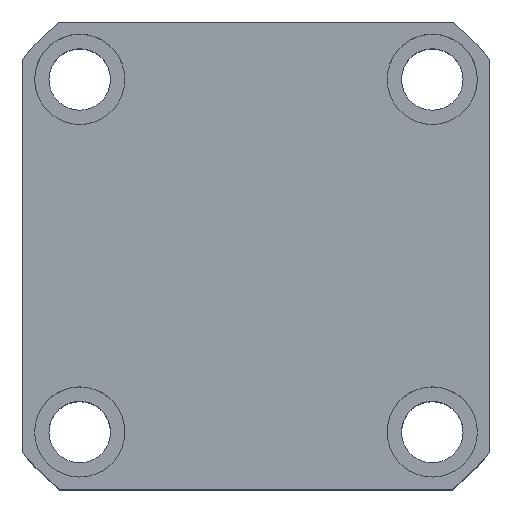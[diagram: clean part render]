
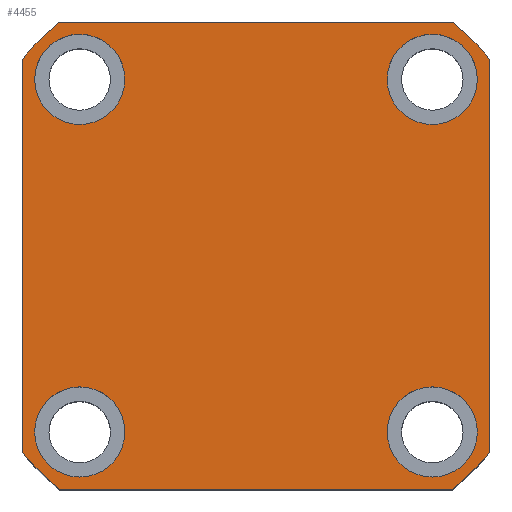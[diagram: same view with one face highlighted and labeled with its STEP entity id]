
A CAD part, top view. The second image highlights one B-rep face of the part: STEP entity #4455.
In plain terms, the highlighted planar face has unit normal (0, 0, 1) as drawn and (0, 0, -1) by its records, which use the part's own axes.
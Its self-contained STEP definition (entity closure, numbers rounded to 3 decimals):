
#21 = EDGE_CURVE ( 'NONE', #13999, #2239, #12391, .T. ) ;
#101 = VERTEX_POINT ( 'NONE', #5856 ) ;
#259 = CARTESIAN_POINT ( 'NONE',  ( -43., -43., 0. ) ) ;
#564 = CARTESIAN_POINT ( 'NONE',  ( -57., 47.971, 0. ) ) ;
#902 = DIRECTION ( 'NONE',  ( 1., 0., 0. ) ) ;
#951 = DIRECTION ( 'NONE',  ( 0., 0., -1. ) ) ;
#1001 = DIRECTION ( 'NONE',  ( -1., 0., 0. ) ) ;
#1107 = ORIENTED_EDGE ( 'NONE', *, *, #10076, .F. ) ;
#1182 = ORIENTED_EDGE ( 'NONE', *, *, #4590, .F. ) ;
#1237 = CARTESIAN_POINT ( 'NONE',  ( -32., 43., 0. ) ) ;
#1273 = LINE ( 'NONE', #13001, #13388 ) ;
#1448 = DIRECTION ( 'NONE',  ( -1., 0., 0. ) ) ;
#1546 = CARTESIAN_POINT ( 'NONE',  ( -54., -43., 0. ) ) ;
#1557 = ORIENTED_EDGE ( 'NONE', *, *, #2484, .F. ) ;
#1594 = CIRCLE ( 'NONE', #2780, 11. ) ;
#1877 = CARTESIAN_POINT ( 'NONE',  ( 0., 0., 0. ) ) ;
#1924 = CARTESIAN_POINT ( 'NONE',  ( 43., -43., 0. ) ) ;
#2032 = ORIENTED_EDGE ( 'NONE', *, *, #13492, .F. ) ;
#2058 = VERTEX_POINT ( 'NONE', #7916 ) ;
#2108 = AXIS2_PLACEMENT_3D ( 'NONE', #6690, #14947, #7881 ) ;
#2239 = VERTEX_POINT ( 'NONE', #1546 ) ;
#2281 = CARTESIAN_POINT ( 'NONE',  ( -57., 57., 0. ) ) ;
#2355 = FACE_BOUND ( 'NONE', #5007, .T. ) ;
#2409 = CARTESIAN_POINT ( 'NONE',  ( 57., 47.971, 0. ) ) ;
#2435 = CIRCLE ( 'NONE', #14882, 11. ) ;
#2473 = EDGE_LOOP ( 'NONE', ( #4984, #7079 ) ) ;
#2484 = EDGE_CURVE ( 'NONE', #101, #10629, #9979, .T. ) ;
#2540 = ORIENTED_EDGE ( 'NONE', *, *, #6001, .F. ) ;
#2654 = ORIENTED_EDGE ( 'NONE', *, *, #9304, .F. ) ;
#2703 = FACE_BOUND ( 'NONE', #2473, .T. ) ;
#2755 = CARTESIAN_POINT ( 'NONE',  ( 43., -43., 0. ) ) ;
#2780 = AXIS2_PLACEMENT_3D ( 'NONE', #7978, #951, #9168 ) ;
#2976 = EDGE_CURVE ( 'NONE', #9476, #9756, #5923, .T. ) ;
#3055 = DIRECTION ( 'NONE',  ( 1., 0., 0. ) ) ;
#3108 = DIRECTION ( 'NONE',  ( -1., 0., 0. ) ) ;
#3130 = ORIENTED_EDGE ( 'NONE', *, *, #14151, .F. ) ;
#3293 = CARTESIAN_POINT ( 'NONE',  ( 32., -43., 0. ) ) ;
#3324 = VERTEX_POINT ( 'NONE', #3293 ) ;
#3368 = CARTESIAN_POINT ( 'NONE',  ( 57., -47.971, 0. ) ) ;
#3455 = DIRECTION ( 'NONE',  ( -1., 0., 0. ) ) ;
#3457 = ORIENTED_EDGE ( 'NONE', *, *, #3481, .F. ) ;
#3481 = EDGE_CURVE ( 'NONE', #10629, #4672, #7561, .T. ) ;
#3943 = DIRECTION ( 'NONE',  ( -1., 0., 0. ) ) ;
#4455 = ADVANCED_FACE ( 'NONE', ( #2355, #8578, #11718, #2703, #8951 ), #12350, .F. ) ;
#4590 = EDGE_CURVE ( 'NONE', #2058, #13052, #1594, .T. ) ;
#4603 = CARTESIAN_POINT ( 'NONE',  ( 0., 0., 0. ) ) ;
#4643 = EDGE_CURVE ( 'NONE', #13052, #2058, #10625, .T. ) ;
#4672 = VERTEX_POINT ( 'NONE', #3368 ) ;
#4677 = VERTEX_POINT ( 'NONE', #10408 ) ;
#4984 = ORIENTED_EDGE ( 'NONE', *, *, #9858, .F. ) ;
#5007 = EDGE_LOOP ( 'NONE', ( #10852, #13472 ) ) ;
#5417 = ORIENTED_EDGE ( 'NONE', *, *, #4643, .F. ) ;
#5772 = DIRECTION ( 'NONE',  ( 1., 0., 0. ) ) ;
#5780 = CARTESIAN_POINT ( 'NONE',  ( 0., 0., 0. ) ) ;
#5856 = CARTESIAN_POINT ( 'NONE',  ( -47.971, -57., 0. ) ) ;
#5917 = VERTEX_POINT ( 'NONE', #564 ) ;
#5923 = CIRCLE ( 'NONE', #2108, 11. ) ;
#5950 = DIRECTION ( 'NONE',  ( 0., -1., 0. ) ) ;
#6001 = EDGE_CURVE ( 'NONE', #4677, #3324, #13726, .T. ) ;
#6127 = ORIENTED_EDGE ( 'NONE', *, *, #13137, .F. ) ;
#6302 = VERTEX_POINT ( 'NONE', #11685 ) ;
#6690 = CARTESIAN_POINT ( 'NONE',  ( -43., 43., 0. ) ) ;
#6812 = CARTESIAN_POINT ( 'NONE',  ( -43., 43., 0. ) ) ;
#6876 = CARTESIAN_POINT ( 'NONE',  ( 0., 0., 0. ) ) ;
#6970 = DIRECTION ( 'NONE',  ( 1., 0., 0. ) ) ;
#7079 = ORIENTED_EDGE ( 'NONE', *, *, #2976, .F. ) ;
#7322 = CIRCLE ( 'NONE', #13481, 74.5 ) ;
#7339 = LINE ( 'NONE', #2281, #13214 ) ;
#7499 = AXIS2_PLACEMENT_3D ( 'NONE', #15093, #8036, #1001 ) ;
#7561 = CIRCLE ( 'NONE', #9963, 74.5 ) ;
#7671 = CARTESIAN_POINT ( 'NONE',  ( -54., 43., 0. ) ) ;
#7722 = ORIENTED_EDGE ( 'NONE', *, *, #8668, .F. ) ;
#7881 = DIRECTION ( 'NONE',  ( -1., 0., 0. ) ) ;
#7888 = CIRCLE ( 'NONE', #7948, 11. ) ;
#7916 = CARTESIAN_POINT ( 'NONE',  ( 54., 43., 0. ) ) ;
#7928 = DIRECTION ( 'NONE',  ( 0., 0., 1. ) ) ;
#7948 = AXIS2_PLACEMENT_3D ( 'NONE', #6812, #15066, #8007 ) ;
#7967 = DIRECTION ( 'NONE',  ( 1., 0., 0. ) ) ;
#7978 = CARTESIAN_POINT ( 'NONE',  ( 43., 43., 0. ) ) ;
#8007 = DIRECTION ( 'NONE',  ( -1., 0., 0. ) ) ;
#8036 = DIRECTION ( 'NONE',  ( 0., 0., -1. ) ) ;
#8068 = DIRECTION ( 'NONE',  ( 1., 0., 0. ) ) ;
#8273 = DIRECTION ( 'NONE',  ( -1., 0., 0. ) ) ;
#8479 = DIRECTION ( 'NONE',  ( 0., 0., -1. ) ) ;
#8556 = AXIS2_PLACEMENT_3D ( 'NONE', #5780, #14033, #6970 ) ;
#8578 = FACE_BOUND ( 'NONE', #11338, .T. ) ;
#8668 = EDGE_CURVE ( 'NONE', #9561, #101, #7322, .T. ) ;
#8881 = DIRECTION ( 'NONE',  ( 0., 1., 0. ) ) ;
#8951 = FACE_OUTER_BOUND ( 'NONE', #9981, .T. ) ;
#9156 = CARTESIAN_POINT ( 'NONE',  ( -57., -57., 0. ) ) ;
#9168 = DIRECTION ( 'NONE',  ( -1., 0., 0. ) ) ;
#9256 = VECTOR ( 'NONE', #7967, 1000. ) ;
#9262 = DIRECTION ( 'NONE',  ( 0., 0., -1. ) ) ;
#9304 = EDGE_CURVE ( 'NONE', #6302, #13158, #7339, .T. ) ;
#9476 = VERTEX_POINT ( 'NONE', #1237 ) ;
#9561 = VERTEX_POINT ( 'NONE', #13149 ) ;
#9720 = CIRCLE ( 'NONE', #9726, 74.5 ) ;
#9726 = AXIS2_PLACEMENT_3D ( 'NONE', #14991, #7928, #902 ) ;
#9756 = VERTEX_POINT ( 'NONE', #7671 ) ;
#9780 = CIRCLE ( 'NONE', #8556, 74.5 ) ;
#9858 = EDGE_CURVE ( 'NONE', #9756, #9476, #7888, .T. ) ;
#9963 = AXIS2_PLACEMENT_3D ( 'NONE', #6876, #15125, #8068 ) ;
#9979 = LINE ( 'NONE', #9156, #9256 ) ;
#9981 = EDGE_LOOP ( 'NONE', ( #2032, #3130, #3457, #1557, #7722, #1107, #12715, #2654 ) ) ;
#10056 = AXIS2_PLACEMENT_3D ( 'NONE', #12607, #9262, #8273 ) ;
#10076 = EDGE_CURVE ( 'NONE', #5917, #9561, #1273, .T. ) ;
#10101 = DIRECTION ( 'NONE',  ( 0., 0., 1. ) ) ;
#10148 = DIRECTION ( 'NONE',  ( 0., 0., -1. ) ) ;
#10408 = CARTESIAN_POINT ( 'NONE',  ( 54., -43., 0. ) ) ;
#10625 = CIRCLE ( 'NONE', #7499, 11. ) ;
#10629 = VERTEX_POINT ( 'NONE', #11424 ) ;
#10657 = EDGE_CURVE ( 'NONE', #13158, #5917, #9720, .T. ) ;
#10770 = EDGE_LOOP ( 'NONE', ( #5417, #1182 ) ) ;
#10852 = ORIENTED_EDGE ( 'NONE', *, *, #13717, .F. ) ;
#10978 = DIRECTION ( 'NONE',  ( 0., 0., -1. ) ) ;
#11187 = CARTESIAN_POINT ( 'NONE',  ( 57., 57., 0. ) ) ;
#11241 = CIRCLE ( 'NONE', #12807, 11. ) ;
#11338 = EDGE_LOOP ( 'NONE', ( #6127, #2540 ) ) ;
#11424 = CARTESIAN_POINT ( 'NONE',  ( 47.971, -57., 0. ) ) ;
#11685 = CARTESIAN_POINT ( 'NONE',  ( 47.971, 57., 0. ) ) ;
#11718 = FACE_BOUND ( 'NONE', #10770, .T. ) ;
#11976 = VECTOR ( 'NONE', #8881, 1000. ) ;
#12107 = CARTESIAN_POINT ( 'NONE',  ( -47.971, 57., 0. ) ) ;
#12224 = CARTESIAN_POINT ( 'NONE',  ( -32., -43., 0. ) ) ;
#12350 = PLANE ( 'NONE',  #14137 ) ;
#12391 = CIRCLE ( 'NONE', #10056, 11. ) ;
#12607 = CARTESIAN_POINT ( 'NONE',  ( -43., -43., 0. ) ) ;
#12715 = ORIENTED_EDGE ( 'NONE', *, *, #10657, .F. ) ;
#12807 = AXIS2_PLACEMENT_3D ( 'NONE', #2755, #10978, #3943 ) ;
#12828 = DIRECTION ( 'NONE',  ( 0., 0., 1. ) ) ;
#13001 = CARTESIAN_POINT ( 'NONE',  ( -57., 57., 0. ) ) ;
#13052 = VERTEX_POINT ( 'NONE', #13233 ) ;
#13137 = EDGE_CURVE ( 'NONE', #3324, #4677, #11241, .T. ) ;
#13149 = CARTESIAN_POINT ( 'NONE',  ( -57., -47.971, 0. ) ) ;
#13158 = VERTEX_POINT ( 'NONE', #12107 ) ;
#13214 = VECTOR ( 'NONE', #3455, 1000. ) ;
#13233 = CARTESIAN_POINT ( 'NONE',  ( 32., 43., 0. ) ) ;
#13366 = AXIS2_PLACEMENT_3D ( 'NONE', #1924, #10148, #3108 ) ;
#13388 = VECTOR ( 'NONE', #5950, 1000. ) ;
#13472 = ORIENTED_EDGE ( 'NONE', *, *, #21, .F. ) ;
#13481 = AXIS2_PLACEMENT_3D ( 'NONE', #4603, #12828, #5772 ) ;
#13492 = EDGE_CURVE ( 'NONE', #14782, #6302, #9780, .T. ) ;
#13717 = EDGE_CURVE ( 'NONE', #2239, #13999, #2435, .T. ) ;
#13726 = CIRCLE ( 'NONE', #13366, 11. ) ;
#13999 = VERTEX_POINT ( 'NONE', #12224 ) ;
#14033 = DIRECTION ( 'NONE',  ( 0., 0., 1. ) ) ;
#14137 = AXIS2_PLACEMENT_3D ( 'NONE', #1877, #10101, #3055 ) ;
#14151 = EDGE_CURVE ( 'NONE', #4672, #14782, #15128, .T. ) ;
#14782 = VERTEX_POINT ( 'NONE', #2409 ) ;
#14882 = AXIS2_PLACEMENT_3D ( 'NONE', #259, #8479, #1448 ) ;
#14947 = DIRECTION ( 'NONE',  ( 0., 0., -1. ) ) ;
#14991 = CARTESIAN_POINT ( 'NONE',  ( 0., 0., 0. ) ) ;
#15066 = DIRECTION ( 'NONE',  ( 0., 0., -1. ) ) ;
#15093 = CARTESIAN_POINT ( 'NONE',  ( 43., 43., 0. ) ) ;
#15125 = DIRECTION ( 'NONE',  ( 0., 0., 1. ) ) ;
#15128 = LINE ( 'NONE', #11187, #11976 ) ;
